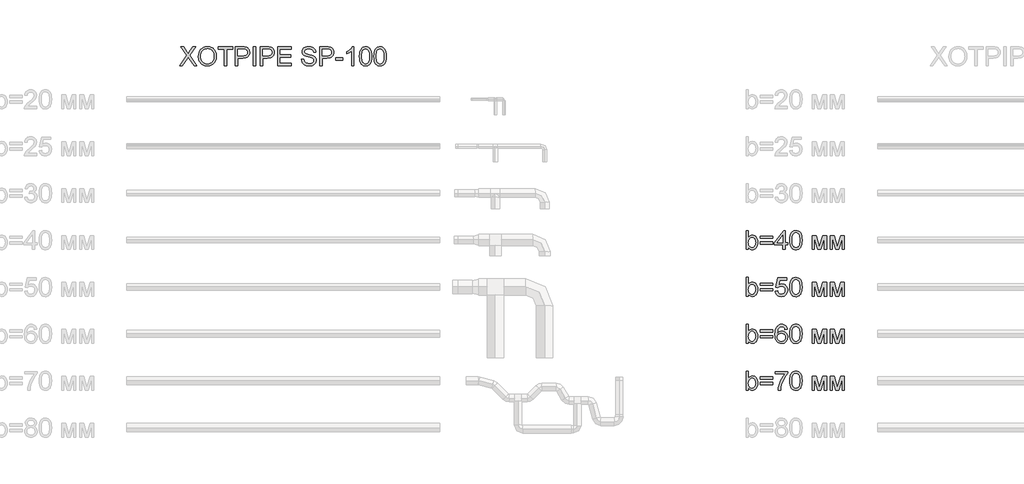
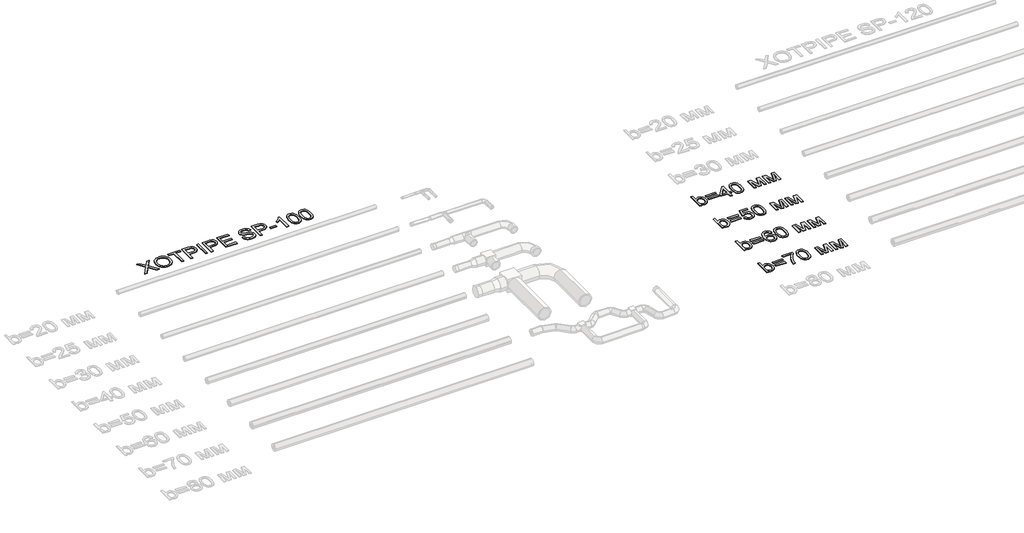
# One storey, part 76 of 86: 5 proxies.
"""IFC4 building model written with IfcOpenShell, lengths in millimetres."""

from ifc_helpers import new_model, si_unit, origin, origin_with_axes, place, context, project, spatial, polyline, outline, extrude, element, save

model = new_model("IFC4")

# Units and contexts
model_context = context("Model", 3, world=origin())
ifc_project = project(units=[si_unit("LENGTHUNIT", "METRE", prefix="MILLI")], contexts=[model_context])

# Site, building, storey
site = spatial("IfcSite", under=ifc_project)
building = spatial("IfcBuilding", under=site)
storey = spatial("IfcBuildingStorey", under=building, Name="Уровень 1", Elevation=0.0)

# Proxies
placement = place(None, origin())
element("IfcBuildingElementProxy", 1, Name="Текст модели 1", ObjectType="Текст модели 1", at=placement, inside=storey, context=model_context, shape_type="SweptSolid", body=[
    extrude(outline(polyline([(28966.5663277, 90543.2937088), (29198.9205959, 90871.7387541), (29004.237444, 91146.0315697), (29094.589262, 91146.0315697), (29204.2180966, 90991.6682845), (29230.3745065, 90952.5624284), (29241.1534489, 90931.4827901), (29284.4163716, 90992.6983541), (29392.8679837, 91146.0315697), (29484.5441769, 91146.0315697), (29289.8610251, 90870.8558373), (29522.2152932, 90543.2937088), (29431.8634752, 90543.2937088), (29277.0587317, 90761.6684611), (29244.8322689, 90806.9915229), (29209.3684445, 90757.2538772), (29058.2425209, 90543.2937088), (28966.5663277, 90543.2937088)])), origin_with_axes(), (0.0, 0.0, 1.0), 20.0),
    extrude(outline(polyline([(29569.3041886, 90836.7163882), (29574.3257779, 90907.4141106), (29589.3905456, 90970.000035), (29614.4984917, 91024.4741614), (29630.8186567, 91048.6693004), (29649.6496164, 91070.8364899), (29692.7377951, 91107.8546156), (29741.6569034, 91134.2961341), (29796.4069413, 91150.1610451), (29856.9879089, 91155.4493488), (29897.5377018, 91152.9661453), (29936.0457496, 91145.5165349), (29972.5120524, 91133.1005176), (30006.9366101, 91115.7180933), (30038.3537325, 91093.8934939), (30065.7977293, 91068.1509513), (30089.2686006, 91038.4904655), (30108.7663464, 91004.9120363), (30124.0886314, 90968.1790191), (30135.0331208, 90929.0547689), (30141.5998144, 90887.5392858), (30143.7887123, 90843.6325697), (30141.4848513, 90799.1464394), (30134.5732683, 90757.0699362), (30123.0539633, 90717.4030601), (30106.9269364, 90680.145811), (30086.573865, 90646.2822733), (30062.3764268, 90616.7965314), (30034.3346217, 90591.6885853), (30002.4484497, 90570.9584348), (29967.9733083, 90554.7348388), (29932.1645946, 90543.146556), (29895.0223086, 90536.1935863), (29856.5464505, 90533.8759297), (29815.2884847, 90536.4373081), (29776.2745991, 90544.1214433), (29739.5047937, 90556.9283352), (29704.9790684, 90574.857984), (29673.5987343, 90597.2160122), (29646.265102, 90623.3080428), (29622.9781717, 90653.1340755), (29603.7379434, 90686.6941105), (29588.6731757, 90722.64078), (29577.9126273, 90759.6267161), (29571.4562983, 90797.6519188), (29569.3041886, 90836.7163882)]), holes=[polyline([(29644.6464212, 90835.9806242), (29648.4126132, 90786.0314463), (29659.7111889, 90741.6924688), (29678.5421486, 90702.9636918), (29704.905492, 90669.8451151), (29736.9526124, 90643.3208233), (29772.8349025, 90624.3749005), (29812.5523624, 90613.0073469), (29856.1049921, 90609.2181623), (29900.4025828, 90613.0441351), (29940.5890923, 90624.5220533), (29976.6645204, 90643.6519171), (30008.6288673, 90670.4337263), (30034.7990727, 90704.2512787), (30053.4920766, 90744.488372), (30064.7078789, 90791.145006), (30068.4464797, 90844.2211809), (30066.846193, 90878.7009209), (30062.045333, 90910.9181866), (30054.0438996, 90940.872978), (30042.8418928, 90968.5652952), (30028.5634729, 90993.6318547), (30011.3327999, 91015.7093729), (29991.149874, 91034.7978499), (29968.014695, 91050.8972857), (29942.6446329, 91063.6765866), (29915.7570576, 91072.8046586), (29887.351969, 91078.2815018), (29857.4293672, 91080.1071162), (29815.3896522, 91076.5892446), (29776.3849637, 91066.0356298), (29740.4153016, 91048.446272), (29707.480666, 91023.8211709), (29679.9906839, 90990.9739073), (29660.3549824, 90948.7180616), (29648.5735615, 90897.0536339), (29644.6464212, 90835.9806242)])]), origin_with_axes(), (0.0, 0.0, 1.0), 20.0),
    extrude(outline(polyline([(30398.0687474, 90543.2937088), (30398.0687474, 91070.6893371), (30200.2953868, 91070.6893371), (30200.2953868, 91146.0315697), (30671.1843406, 91146.0315697), (30671.1843406, 91070.6893371), (30473.41098, 91070.6893371), (30473.41098, 90543.2937088), (30398.0687474, 90543.2937088)])), origin_with_axes(), (0.0, 0.0, 1.0), 20.0),
    extrude(outline(polyline([(30755.9443523, 90543.2937088), (30755.9443523, 91146.0315697), (30979.3222997, 91146.0315697), (31031.3408139, 91144.5968299), (31069.3798122, 91140.2926106), (31109.5341319, 91129.5688504), (31142.5883292, 91112.1128497), (31169.2045915, 91087.1336623), (31190.0451066, 91053.8403417), (31203.5095876, 91014.5689387), (31207.9977479, 90971.655504), (31204.96732, 90934.6557723), (31195.8760362, 90900.6174907), (31180.7238965, 90869.5406592), (31159.510901, 90841.4252777), (31130.3884425, 90818.1199533), (31091.5079142, 90801.473293), (31042.8693159, 90791.4852968), (30984.4726477, 90788.1559648), (30831.2865849, 90788.1559648), (30831.2865849, 90543.2937088), (30755.9443523, 90543.2937088)]), holes=[polyline([(30831.2865849, 90863.4981974), (30988.8872316, 90863.4981974), (31025.1236081, 90865.2272428), (31055.6946019, 90870.4143789), (31080.600213, 90879.0596058), (31099.8404414, 90891.1629234), (31114.1970362, 90906.4024351), (31124.4517468, 90924.456244), (31130.6045732, 90945.3243502), (31132.6555153, 90969.0067536), (31127.8178671, 91002.8518972), (31113.3049224, 91031.39954), (31090.919303, 91052.8838485), (31062.4636306, 91065.5389892), (31033.400953, 91069.4017501), (30987.121398, 91070.6893371), (30831.2865849, 91070.6893371), (30831.2865849, 90863.4981974)])]), origin_with_axes(), (0.0, 0.0, 1.0), 20.0),
    extrude(outline(polyline([(31321.0110969, 90543.2937088), (31321.0110969, 91146.0315697), (31396.3533295, 91146.0315697), (31396.3533295, 90543.2937088), (31321.0110969, 90543.2937088)])), origin_with_axes(), (0.0, 0.0, 1.0), 20.0),
    extrude(outline(polyline([(31547.0377947, 90543.2937088), (31547.0377947, 91146.0315697), (31770.4157422, 91146.0315697), (31822.4342563, 91144.5968299), (31860.4732546, 91140.2926106), (31900.6275744, 91129.5688504), (31933.6817716, 91112.1128497), (31960.298034, 91087.1336623), (31981.138549, 91053.8403417), (31994.60303, 91014.5689387), (31999.0911904, 90971.655504), (31996.0607624, 90934.6557723), (31986.9694786, 90900.6174907), (31971.8173389, 90869.5406592), (31950.6043434, 90841.4252777), (31921.481885, 90818.1199533), (31882.6013566, 90801.473293), (31833.9627583, 90791.4852968), (31775.5660901, 90788.1559648), (31622.3800273, 90788.1559648), (31622.3800273, 90543.2937088), (31547.0377947, 90543.2937088)]), holes=[polyline([(31622.3800273, 90863.4981974), (31779.980674, 90863.4981974), (31816.2170506, 90865.2272428), (31846.7880444, 90870.4143789), (31871.6936554, 90879.0596058), (31890.9338838, 90891.1629234), (31905.2904786, 90906.4024351), (31915.5451893, 90924.456244), (31921.6980156, 90945.3243502), (31923.7489578, 90969.0067536), (31918.9113095, 91002.8518972), (31904.3983648, 91031.39954), (31882.0127454, 91052.8838485), (31853.5570731, 91065.5389892), (31824.4943955, 91069.4017501), (31778.2148405, 91070.6893371), (31622.3800273, 91070.6893371), (31622.3800273, 90863.4981974)])]), origin_with_axes(), (0.0, 0.0, 1.0), 20.0),
    extrude(outline(polyline([(32102.6867602, 90543.2937088), (32102.6867602, 91146.0315697), (32535.9045977, 91146.0315697), (32535.9045977, 91070.6893371), (32178.0289928, 91070.6893371), (32178.0289928, 90891.7515346), (32517.0690396, 90891.7515346), (32517.0690396, 90816.409302), (32178.0289928, 90816.409302), (32178.0289928, 90618.6359414), (32545.3223768, 90618.6359414), (32545.3223768, 90543.2937088), (32102.6867602, 90543.2937088)])), origin_with_axes(), (0.0, 0.0, 1.0), 20.0),
    extrude(outline(polyline([(32865.5268654, 90750.4848485), (32940.869098, 90750.4848485), (32949.5143249, 90708.6750597), (32965.1493097, 90675.0690395), (32989.539886, 90648.3975948), (33024.4518873, 90627.3915329), (33067.1261988, 90613.761505), (33114.8037053, 90609.2181623), (33156.779041, 90612.657859), (33193.5304523, 90622.976949), (33223.3104998, 90639.3109095), (33244.371744, 90660.7952181), (33256.898126, 90685.4617058), (33261.0735866, 90711.3422042), (33257.9465897, 90736.560515), (33248.5655988, 90758.3575232), (33229.5093114, 90776.953958), (33197.3564251, 90792.5705487), (33087.6540141, 90821.3389208), (33015.6411135, 90840.376814), (32969.5638936, 90858.4950023), (32932.0583242, 90883.8420717), (32905.4788501, 90914.5602183), (32889.6415302, 90949.9872545), (32884.3624236, 90989.4609925), (32885.9948999, 91011.8971957), (32890.892329, 91033.5884379), (32899.0547107, 91054.534719), (32910.4820452, 91074.736039), (32925.0455737, 91093.3692621), (32942.6165375, 91109.6112522), (32963.1949366, 91123.4620093), (32986.780771, 91134.9215334), (33039.7925665, 91150.3173949), (33098.4697448, 91155.4493488), (33162.0397535, 91150.0782716), (33217.6635112, 91133.9650403), (33241.9989052, 91121.9628902), (33263.354455, 91107.4407484), (33281.7301607, 91090.398615), (33297.1260221, 91070.8364899), (33309.4224778, 91049.3245902), (33318.4999661, 91026.4331331), (33324.3584868, 91002.1621184), (33326.9980402, 90976.5115463), (33251.6558075, 90976.5115463), (33246.6158242, 91000.5526347), (33237.8234445, 91021.4667261), (33225.2786685, 91039.2538206), (33208.9814961, 91053.9139181), (33188.6284247, 91065.3734423), (33163.9159517, 91073.5588166), (33134.844077, 91078.4700413), (33101.4128007, 91080.1071162), (33066.9146666, 91078.4884354), (33037.4381218, 91073.632393), (33012.9831661, 91065.5389892), (32993.5497997, 91054.2082237), (32978.7425494, 91040.5873928), (32968.1659421, 91025.6237927), (32961.8199776, 91009.3174232), (32959.7046562, 90991.6682845), (32961.2037753, 90976.4839552), (32965.7011327, 90962.7159715), (32973.1967283, 90950.3643335), (32983.6905623, 90939.4290412), (33000.2084638, 90929.073163), (33026.2177209, 90918.6069203), (33106.7103014, 90897.343341), (33189.778056, 90877.1466194), (33240.0307365, 90859.5250719), (33282.9809594, 90832.1914396), (33299.586233, 90816.1241935), (33312.9449479, 90798.4566607), (33323.2134541, 90779.2808117), (33330.5481014, 90758.688617), (33336.4158192, 90713.2551906), (33334.7281606, 90689.6877503), (33329.6651846, 90666.8100887), (33321.2268914, 90644.6222058), (33309.4132808, 90623.1241018), (33294.4312865, 90603.1481094), (33276.4878422, 90585.5265618), (33255.5829478, 90570.259459), (33231.7166034, 90557.346801), (33205.5831862, 90547.0782948), (33177.8770734, 90539.7436475), (33117.7467613, 90533.8759297), (33079.2065238, 90535.4578223), (33043.931239, 90540.2035), (33011.9209069, 90548.1129629), (32983.1755275, 90559.186211), (32957.5203568, 90573.4416383), (32934.780651, 90590.897639), (32914.95641, 90611.554213), (32898.0476338, 90635.4113604), (32884.4268029, 90661.6965289), (32874.4663979, 90689.6371665), (32868.1664187, 90719.233273), (32865.5268654, 90750.4848485)])), origin_with_axes(), (0.0, 0.0, 1.0), 20.0),
    extrude(outline(polyline([(33449.4291682, 90543.2937088), (33449.4291682, 91146.0315697), (33672.8071156, 91146.0315697), (33724.8256297, 91144.5968299), (33762.864628, 91140.2926106), (33803.0189478, 91129.5688504), (33836.0731451, 91112.1128497), (33862.6894074, 91087.1336623), (33883.5299225, 91053.8403417), (33896.9944035, 91014.5689387), (33901.4825638, 90971.655504), (33898.4521359, 90934.6557723), (33889.3608521, 90900.6174907), (33874.2087124, 90869.5406592), (33852.9957169, 90841.4252777), (33823.8732584, 90818.1199533), (33784.9927301, 90801.473293), (33736.3541318, 90791.4852968), (33677.9574636, 90788.1559648), (33524.7714008, 90788.1559648), (33524.7714008, 90543.2937088), (33449.4291682, 90543.2937088)]), holes=[polyline([(33524.7714008, 90863.4981974), (33682.3720475, 90863.4981974), (33718.608424, 90865.2272428), (33749.1794178, 90870.4143789), (33774.0850289, 90879.0596058), (33793.3252572, 90891.1629234), (33807.6818521, 90906.4024351), (33817.9365627, 90924.456244), (33824.0893891, 90945.3243502), (33826.1403312, 90969.0067536), (33821.302683, 91002.8518972), (33806.7897383, 91031.39954), (33784.4041189, 91052.8838485), (33755.9484465, 91065.5389892), (33726.8857689, 91069.4017501), (33680.6062139, 91070.6893371), (33524.7714008, 91070.6893371), (33524.7714008, 90863.4981974)])]), origin_with_axes(), (0.0, 0.0, 1.0), 20.0),
    extrude(outline(polyline([(33957.9892383, 90722.2315113), (33957.9892383, 90797.5737439), (34193.4337152, 90797.5737439), (34193.4337152, 90722.2315113), (33957.9892383, 90722.2315113)])), origin_with_axes(), (0.0, 0.0, 1.0), 20.0),
    extrude(outline(polyline([(34541.891541, 90543.2937088), (34466.5493084, 90543.2937088), (34466.5493084, 91013.0054402), (34435.0953978, 90987.5664003), (34395.1802014, 90962.1641485), (34353.2784421, 90939.9624701), (34315.8648432, 90924.1251502), (34315.8648432, 90995.3471045), (34375.0386621, 91027.5367791), (34426.3030181, 91065.8332947), (34466.7148553, 91106.5578316), (34493.3311177, 91146.0315697), (34541.891541, 91146.0315697), (34541.891541, 90543.2937088)])), origin_with_axes(), (0.0, 0.0, 1.0), 20.0),
    extrude(outline(polyline([(34720.8293435, 90839.8065969), (34726.3659675, 90936.2836501), (34733.2867475, 90977.1967265), (34742.9758396, 91013.2261694), (34755.3918569, 91044.6662845), (34770.4934128, 91071.8113772), (34788.2805073, 91094.6614476), (34808.7531403, 91113.2164957), (34831.9802898, 91127.5730906), (34858.0309336, 91137.8278012), (34886.9050717, 91143.9806276), (34918.6027041, 91146.0315697), (34965.0294119, 91141.1755274), (35006.6000773, 91126.6074004), (35041.3649259, 91102.8974058), (35067.3741829, 91070.6157607), (35087.0190815, 91030.0383766), (35102.6908545, 90981.4411651), (35112.9547621, 90919.7289604), (35116.3760647, 90839.8065969), (35110.894623, 90743.8813667), (35104.0428208, 90703.106246), (35094.4502978, 90667.1227884), (35082.1308495, 90635.6688778), (35067.0982714, 90608.4823983), (35049.3525637, 90585.56335), (35028.8937262, 90566.9117329), (35005.6389856, 90552.458569), (34979.5055684, 90542.1348805), (34950.4934745, 90535.9406674), (34918.6027041, 90533.8759297), (34877.105615, 90537.4627792), (34840.3174155, 90548.2233275), (34808.2381055, 90566.1575748), (34780.8676851, 90591.265521), (34754.6009106, 90636.6529621), (34735.8389289, 90693.2056218), (34724.5817398, 90760.9235001), (34720.8293435, 90839.8065969)]), holes=[polyline([(34796.1715761, 90839.9537497), (34798.3788681, 90774.456959), (34805.000744, 90721.440565), (34816.0372038, 90680.9045676), (34831.4882476, 90652.848967), (34850.176653, 90633.7604899), (34870.9251975, 90620.1258635), (34893.7338812, 90611.9450876), (34918.6027041, 90609.2181623), (34943.471527, 90611.9542847), (34966.2802107, 90620.1626517), (34987.0287552, 90633.8432634), (35005.7171605, 90652.9961198), (35021.1682043, 90681.0977057), (35032.2046642, 90721.624506), (35038.8265401, 90774.5765206), (35041.0338321, 90839.9537497), (35038.9001165, 90903.7168965), (35032.4989698, 90955.79979), (35021.8303919, 90996.2024301), (35006.8943829, 91024.9248169), (34988.5186773, 91044.9467945), (34967.5310094, 91059.248207), (34943.9313795, 91067.8290546), (34917.7197873, 91070.6893371), (34892.9797231, 91068.1693454), (34870.5573155, 91060.6093704), (34850.4525645, 91048.0094121), (34832.66547, 91030.3694704), (34816.6993914, 90999.0995008), (34805.2950496, 90956.9402242), (34798.4524445, 90903.8916405), (34796.1715761, 90839.9537497)])]), origin_with_axes(), (0.0, 0.0, 1.0), 20.0),
    extrude(outline(polyline([(35182.3005182, 90839.8065969), (35187.8371423, 90936.2836501), (35194.7579223, 90977.1967265), (35204.4470143, 91013.2261694), (35216.8630317, 91044.6662845), (35231.9645876, 91071.8113772), (35249.751682, 91094.6614476), (35270.2243151, 91113.2164957), (35293.4514646, 91127.5730906), (35319.5021083, 91137.8278012), (35348.3762464, 91143.9806276), (35380.0738788, 91146.0315697), (35426.5005866, 91141.1755274), (35468.0712521, 91126.6074004), (35502.8361006, 91102.8974058), (35528.8453577, 91070.6157607), (35548.4902562, 91030.0383766), (35564.1620292, 90981.4411651), (35574.4259369, 90919.7289604), (35577.8472394, 90839.8065969), (35572.3657977, 90743.8813667), (35565.5139956, 90703.106246), (35555.9214725, 90667.1227884), (35543.6020242, 90635.6688778), (35528.5694462, 90608.4823983), (35510.8237385, 90585.56335), (35490.364901, 90566.9117329), (35467.1101604, 90552.458569), (35440.9767431, 90542.1348805), (35411.9646493, 90535.9406674), (35380.0738788, 90533.8759297), (35338.5767898, 90537.4627792), (35301.7885903, 90548.2233275), (35269.7092803, 90566.1575748), (35242.3388598, 90591.265521), (35216.0720854, 90636.6529621), (35197.3101036, 90693.2056218), (35186.0529146, 90760.9235001), (35182.3005182, 90839.8065969)]), holes=[polyline([(35257.6427508, 90839.9537497), (35259.8500428, 90774.456959), (35266.4719187, 90721.440565), (35277.5083786, 90680.9045676), (35292.9594224, 90652.848967), (35311.6478277, 90633.7604899), (35332.3963723, 90620.1258635), (35355.205056, 90611.9450876), (35380.0738788, 90609.2181623), (35404.9427017, 90611.9542847), (35427.7513854, 90620.1626517), (35448.4999299, 90633.8432634), (35467.1883353, 90652.9961198), (35482.6393791, 90681.0977057), (35493.675839, 90721.624506), (35500.2977149, 90774.5765206), (35502.5050068, 90839.9537497), (35500.3712913, 90903.7168965), (35493.9701445, 90955.79979), (35483.3015667, 90996.2024301), (35468.3655577, 91024.9248169), (35449.989852, 91044.9467945), (35429.0021842, 91059.248207), (35405.4025542, 91067.8290546), (35379.1909621, 91070.6893371), (35354.4508979, 91068.1693454), (35332.0284903, 91060.6093704), (35311.9237392, 91048.0094121), (35294.1366448, 91030.3694704), (35278.1705662, 90999.0995008), (35266.7662243, 90956.9402242), (35259.9236192, 90903.8916405), (35257.6427508, 90839.9537497)])]), origin_with_axes(), (0.0, 0.0, 1.0), 20.0),
])
element("IfcBuildingElementProxy", 2, Name="Текст модели 1", ObjectType="Текст модели 1", at=placement, inside=storey, context=model_context, shape_type="SweptSolid", body=[
    extrude(outline(polyline([(47159.6307988, 84669.2937088), (47084.2885662, 84669.2937088), (47084.2885662, 85272.0315697), (47159.6307988, 85272.0315697), (47159.6307988, 85048.5064694), (47184.4076512, 85080.3742473), (47212.3850769, 85103.1369457), (47243.563076, 85116.7945648), (47277.9416484, 85121.3471045), (47316.7531989, 85117.2452202), (47353.4310339, 85104.9395675), (47385.8782258, 85085.2026984), (47411.9978475, 85058.8071653), (47432.4704805, 85026.0104854), (47447.9767066, 84987.0701762), (47457.7439736, 84943.6049185), (47460.9997292, 84897.233393), (47457.6290105, 84843.7249568), (47447.5168541, 84796.6544555), (47430.6632602, 84756.0218892), (47407.0682288, 84721.8272577), (47378.7459136, 84694.7235517), (47347.7104688, 84675.3637617), (47313.9618943, 84663.7478877), (47277.50019, 84659.8759297), (47241.9903805, 84664.8699278), (47210.5088787, 84679.8519221), (47183.0556848, 84704.8219125), (47159.6307988, 84739.7798991), (47159.6307988, 84669.2937088)]), holes=[polyline([(47159.6307988, 84893.7017259), (47164.7811467, 84830.8674811), (47171.2190816, 84807.065516), (47180.2321905, 84788.3403224), (47198.4883345, 84765.0993774), (47219.7059286, 84748.4987024), (47243.8849727, 84738.5382973), (47271.0254669, 84735.2181623), (47293.5582391, 84737.6645776), (47314.5091188, 84745.0038234), (47333.8781058, 84757.2358997), (47351.6652003, 84774.3608066), (47366.5368299, 84796.3325588), (47377.1594225, 84823.105171), (47383.5329781, 84854.6786432), (47385.6574966, 84891.0529755), (47383.6203501, 84928.1170865), (47377.5089104, 84959.9940614), (47367.3231777, 84986.6839001), (47353.0631519, 85008.1866028), (47335.9152524, 85024.7320955), (47317.0658986, 85036.5503046), (47296.5150907, 85043.64123), (47274.2628285, 85046.0048719), (47251.7300563, 85043.5584566), (47230.7791767, 85036.2192108), (47211.4101896, 85023.9871344), (47193.6230951, 85006.8622276), (47178.7514655, 84985.1112046), (47168.1288729, 84959.00078), (47161.7553173, 84928.5309538), (47159.6307988, 84893.7017259)])]), origin_with_axes(), (0.0, 0.0, 1.0), 20.0),
    extrude(outline(polyline([(47931.8886831, 85017.7515346), (47536.3419619, 85017.7515346), (47536.3419619, 85093.0937672), (47931.8886831, 85093.0937672), (47931.8886831, 85017.7515346)])), origin_with_axes(), (0.0, 0.0, 1.0), 20.0),
    extrude(outline(polyline([(47931.8886831, 84838.8137322), (47536.3419619, 84838.8137322), (47536.3419619, 84914.1559648), (47931.8886831, 84914.1559648), (47931.8886831, 84838.8137322)])), origin_with_axes(), (0.0, 0.0, 1.0), 20.0),
    extrude(outline(polyline([(48261.5109507, 84669.2937088), (48261.5109507, 84810.5603949), (47988.3953575, 84810.5603949), (47988.3953575, 84885.9026276), (48280.3465089, 85262.6137906), (48336.8531834, 85262.6137906), (48336.8531834, 84885.9026276), (48412.195416, 84885.9026276), (48412.195416, 84810.5603949), (48336.8531834, 84810.5603949), (48336.8531834, 84669.2937088), (48261.5109507, 84669.2937088)]), holes=[polyline([(48261.5109507, 84885.9026276), (48261.5109507, 85118.6983541), (48081.1016203, 84885.9026276), (48261.5109507, 84885.9026276)])]), origin_with_axes(), (0.0, 0.0, 1.0), 20.0),
    extrude(outline(polyline([(48478.1198695, 84965.8065969), (48483.6564935, 85062.2836501), (48490.5772736, 85103.1967265), (48500.2663656, 85139.2261694), (48512.682383, 85170.6662845), (48527.7839389, 85197.8113772), (48545.5710333, 85220.6614476), (48566.0436664, 85239.2164957), (48589.2708158, 85253.5730906), (48615.3214596, 85263.8278012), (48644.1955977, 85269.9806276), (48675.8932301, 85272.0315697), (48722.3199379, 85267.1755274), (48763.8906034, 85252.6074004), (48798.6554519, 85228.8974058), (48824.664709, 85196.6157607), (48844.3096075, 85156.0383766), (48859.9813805, 85107.4411651), (48870.2452882, 85045.7289604), (48873.6665907, 84965.8065969), (48868.185149, 84869.8813667), (48861.3333468, 84829.106246), (48851.7408238, 84793.1227884), (48839.4213755, 84761.6688778), (48824.3887975, 84734.4823983), (48806.6430897, 84711.56335), (48786.1842523, 84692.9117329), (48762.9295116, 84678.458569), (48736.7960944, 84668.1348805), (48707.7840006, 84661.9406674), (48675.8932301, 84659.8759297), (48634.3961411, 84663.4627792), (48597.6079415, 84674.2233275), (48565.5286316, 84692.1575748), (48538.1582111, 84717.265521), (48511.8914367, 84762.6529621), (48493.1294549, 84819.2056218), (48481.8722659, 84886.9235001), (48478.1198695, 84965.8065969)]), holes=[polyline([(48553.4621021, 84965.9537497), (48555.6693941, 84900.456959), (48562.29127, 84847.440565), (48573.3277299, 84806.9045676), (48588.7787737, 84778.848967), (48607.467179, 84759.7604899), (48628.2157235, 84746.1258635), (48651.0244072, 84737.9450876), (48675.8932301, 84735.2181623), (48700.762053, 84737.9542847), (48723.5707367, 84746.1626517), (48744.3192812, 84759.8432634), (48763.0076866, 84778.9961198), (48778.4587304, 84807.0977057), (48789.4951902, 84847.624506), (48796.1170661, 84900.5765206), (48798.3243581, 84965.9537497), (48796.1906425, 85029.7168965), (48789.7894958, 85081.79979), (48779.120918, 85122.2024301), (48764.184909, 85150.9248169), (48745.8092033, 85170.9467945), (48724.8215355, 85185.248207), (48701.2219055, 85193.8290546), (48675.0103133, 85196.6893371), (48650.2702492, 85194.1693454), (48627.8478415, 85186.6093704), (48607.7430905, 85174.0094121), (48589.955996, 85156.3694704), (48573.9899175, 85125.0995008), (48562.5855756, 85082.9402242), (48555.7429705, 85029.8916405), (48553.4621021, 84965.9537497)])]), origin_with_axes(), (0.0, 0.0, 1.0), 20.0),
    extrude(outline(polyline([(49193.8710793, 85111.9293254), (49323.5126944, 85111.9293254), (49423.4294443, 84757.5853876), (49531.1452925, 85111.9293254), (49655.3422541, 85111.9293254), (49655.3422541, 84669.2937088), (49580.0000215, 84669.2937088), (49580.0000215, 85025.6977857), (49471.6955621, 84669.2937088), (49372.8088818, 84669.2937088), (49269.2133119, 85042.7675103), (49269.2133119, 84669.2937088), (49193.8710793, 84669.2937088), (49193.8710793, 85111.9293254)])), origin_with_axes(), (0.0, 0.0, 1.0), 20.0),
    extrude(outline(polyline([(49768.355603, 85111.9293254), (49897.9972181, 85111.9293254), (49997.913968, 84757.5853876), (50105.6298162, 85111.9293254), (50229.8267777, 85111.9293254), (50229.8267777, 84669.2937088), (50154.4845451, 84669.2937088), (50154.4845451, 85025.6977857), (50046.1800857, 84669.2937088), (49947.2934054, 84669.2937088), (49843.6978356, 85042.7675103), (49843.6978356, 84669.2937088), (49768.355603, 84669.2937088), (49768.355603, 85111.9293254)])), origin_with_axes(), (0.0, 0.0, 1.0), 20.0),
])
element("IfcBuildingElementProxy", 3, Name="Текст модели 1", ObjectType="Текст модели 1", at=placement, inside=storey, context=model_context, shape_type="SweptSolid", body=[
    extrude(outline(polyline([(47159.6307988, 83169.2937088), (47084.2885662, 83169.2937088), (47084.2885662, 83772.0315697), (47159.6307988, 83772.0315697), (47159.6307988, 83548.5064694), (47184.4076512, 83580.3742473), (47212.3850769, 83603.1369457), (47243.563076, 83616.7945648), (47277.9416484, 83621.3471045), (47316.7531989, 83617.2452202), (47353.4310339, 83604.9395675), (47385.8782258, 83585.2026984), (47411.9978475, 83558.8071653), (47432.4704805, 83526.0104854), (47447.9767066, 83487.0701762), (47457.7439736, 83443.6049185), (47460.9997292, 83397.233393), (47457.6290105, 83343.7249568), (47447.5168541, 83296.6544555), (47430.6632602, 83256.0218892), (47407.0682288, 83221.8272577), (47378.7459136, 83194.7235517), (47347.7104688, 83175.3637617), (47313.9618943, 83163.7478877), (47277.50019, 83159.8759297), (47241.9903805, 83164.8699278), (47210.5088787, 83179.8519221), (47183.0556848, 83204.8219125), (47159.6307988, 83239.7798991), (47159.6307988, 83169.2937088)]), holes=[polyline([(47159.6307988, 83393.7017259), (47164.7811467, 83330.8674811), (47171.2190816, 83307.065516), (47180.2321905, 83288.3403224), (47198.4883345, 83265.0993774), (47219.7059286, 83248.4987024), (47243.8849727, 83238.5382973), (47271.0254669, 83235.2181623), (47293.5582391, 83237.6645776), (47314.5091188, 83245.0038234), (47333.8781058, 83257.2358997), (47351.6652003, 83274.3608066), (47366.5368299, 83296.3325588), (47377.1594225, 83323.105171), (47383.5329781, 83354.6786432), (47385.6574966, 83391.0529755), (47383.6203501, 83428.1170865), (47377.5089104, 83459.9940614), (47367.3231777, 83486.6839001), (47353.0631519, 83508.1866028), (47335.9152524, 83524.7320955), (47317.0658986, 83536.5503046), (47296.5150907, 83543.64123), (47274.2628285, 83546.0048719), (47251.7300563, 83543.5584566), (47230.7791767, 83536.2192108), (47211.4101896, 83523.9871344), (47193.6230951, 83506.8622276), (47178.7514655, 83485.1112046), (47168.1288729, 83459.00078), (47161.7553173, 83428.5309538), (47159.6307988, 83393.7017259)])]), origin_with_axes(), (0.0, 0.0, 1.0), 20.0),
    extrude(outline(polyline([(47931.8886831, 83517.7515346), (47536.3419619, 83517.7515346), (47536.3419619, 83593.0937672), (47931.8886831, 83593.0937672), (47931.8886831, 83517.7515346)])), origin_with_axes(), (0.0, 0.0, 1.0), 20.0),
    extrude(outline(polyline([(47931.8886831, 83338.8137322), (47536.3419619, 83338.8137322), (47536.3419619, 83414.1559648), (47931.8886831, 83414.1559648), (47931.8886831, 83338.8137322)])), origin_with_axes(), (0.0, 0.0, 1.0), 20.0),
    extrude(outline(polyline([(48016.6486948, 83329.3959531), (48091.9909274, 83338.8137322), (48097.6195219, 83314.5933013), (48105.8232904, 83293.5826409), (48116.6022328, 83275.7817508), (48129.9563493, 83261.1906312), (48145.8580485, 83249.8276761), (48164.2797394, 83241.7112795), (48185.221422, 83236.8414416), (48208.6830962, 83235.2181623), (48237.3778919, 83237.4760381), (48262.6881731, 83244.2496653), (48284.61394, 83255.539044), (48303.1551926, 83271.3441743), (48317.8980636, 83290.8833067), (48328.4286857, 83313.3746922), (48334.7470589, 83338.8183307), (48336.8531834, 83367.2142222), (48334.8804162, 83394.0512138), (48328.9621146, 83417.9083611), (48319.0982786, 83438.7856644), (48305.2889082, 83456.6831234), (48287.4880181, 83471.0397183), (48265.6496232, 83481.2944289), (48239.7737234, 83487.4472553), (48209.8603186, 83489.4981974), (48173.3112424, 83486.2240476), (48143.7151359, 83476.4015984), (48120.0787177, 83461.3552248), (48101.4087064, 83442.409302), (48026.0664738, 83451.8270811), (48091.9909274, 83762.6137906), (48383.9420787, 83762.6137906), (48383.9420787, 83687.271558), (48152.9121858, 83687.271558), (48120.685723, 83521.2832018), (48147.2743942, 83540.3394891), (48174.5068589, 83553.951123), (48202.3831171, 83562.1181032), (48230.9031687, 83564.84043), (48267.5947992, 83561.4651127), (48301.2973885, 83551.3391608), (48332.0109366, 83534.4625743), (48359.7354435, 83510.8353531), (48382.6866814, 83481.9014342), (48399.0804228, 83449.1047543), (48408.9166677, 83412.4453135), (48412.195416, 83371.9231117), (48409.243163, 83332.8908321), (48400.3864039, 83296.5808791), (48385.6251389, 83262.993253), (48364.9593678, 83232.1279536), (48333.65261, 83200.5176931), (48297.1219279, 83177.9389357), (48255.3673214, 83164.3916812), (48208.3887906, 83159.8759297), (48169.5082623, 83162.777599), (48134.3893273, 83171.4826067), (48103.0319858, 83185.9909529), (48075.4362376, 83206.3026375), (48052.4758026, 83231.4059852), (48035.0244004, 83260.2893203), (48023.0820311, 83292.952643), (48016.6486948, 83329.3959531)])), origin_with_axes(), (0.0, 0.0, 1.0), 20.0),
    extrude(outline(polyline([(48478.1198695, 83465.8065969), (48483.6564935, 83562.2836501), (48490.5772736, 83603.1967265), (48500.2663656, 83639.2261694), (48512.682383, 83670.6662845), (48527.7839389, 83697.8113772), (48545.5710333, 83720.6614476), (48566.0436664, 83739.2164957), (48589.2708158, 83753.5730906), (48615.3214596, 83763.8278012), (48644.1955977, 83769.9806276), (48675.8932301, 83772.0315697), (48722.3199379, 83767.1755274), (48763.8906034, 83752.6074004), (48798.6554519, 83728.8974058), (48824.664709, 83696.6157607), (48844.3096075, 83656.0383766), (48859.9813805, 83607.4411651), (48870.2452882, 83545.7289604), (48873.6665907, 83465.8065969), (48868.185149, 83369.8813667), (48861.3333468, 83329.106246), (48851.7408238, 83293.1227884), (48839.4213755, 83261.6688778), (48824.3887975, 83234.4823983), (48806.6430897, 83211.56335), (48786.1842523, 83192.9117329), (48762.9295116, 83178.458569), (48736.7960944, 83168.1348805), (48707.7840006, 83161.9406674), (48675.8932301, 83159.8759297), (48634.3961411, 83163.4627792), (48597.6079415, 83174.2233275), (48565.5286316, 83192.1575748), (48538.1582111, 83217.265521), (48511.8914367, 83262.6529621), (48493.1294549, 83319.2056218), (48481.8722659, 83386.9235001), (48478.1198695, 83465.8065969)]), holes=[polyline([(48553.4621021, 83465.9537497), (48555.6693941, 83400.456959), (48562.29127, 83347.440565), (48573.3277299, 83306.9045676), (48588.7787737, 83278.848967), (48607.467179, 83259.7604899), (48628.2157235, 83246.1258635), (48651.0244072, 83237.9450876), (48675.8932301, 83235.2181623), (48700.762053, 83237.9542847), (48723.5707367, 83246.1626517), (48744.3192812, 83259.8432634), (48763.0076866, 83278.9961198), (48778.4587304, 83307.0977057), (48789.4951902, 83347.624506), (48796.1170661, 83400.5765206), (48798.3243581, 83465.9537497), (48796.1906425, 83529.7168965), (48789.7894958, 83581.79979), (48779.120918, 83622.2024301), (48764.184909, 83650.9248169), (48745.8092033, 83670.9467945), (48724.8215355, 83685.248207), (48701.2219055, 83693.8290546), (48675.0103133, 83696.6893371), (48650.2702492, 83694.1693454), (48627.8478415, 83686.6093704), (48607.7430905, 83674.0094121), (48589.955996, 83656.3694704), (48573.9899175, 83625.0995008), (48562.5855756, 83582.9402242), (48555.7429705, 83529.8916405), (48553.4621021, 83465.9537497)])]), origin_with_axes(), (0.0, 0.0, 1.0), 20.0),
    extrude(outline(polyline([(49193.8710793, 83611.9293254), (49323.5126944, 83611.9293254), (49423.4294443, 83257.5853876), (49531.1452925, 83611.9293254), (49655.3422541, 83611.9293254), (49655.3422541, 83169.2937088), (49580.0000215, 83169.2937088), (49580.0000215, 83525.6977857), (49471.6955621, 83169.2937088), (49372.8088818, 83169.2937088), (49269.2133119, 83542.7675103), (49269.2133119, 83169.2937088), (49193.8710793, 83169.2937088), (49193.8710793, 83611.9293254)])), origin_with_axes(), (0.0, 0.0, 1.0), 20.0),
    extrude(outline(polyline([(49768.355603, 83611.9293254), (49897.9972181, 83611.9293254), (49997.913968, 83257.5853876), (50105.6298162, 83611.9293254), (50229.8267777, 83611.9293254), (50229.8267777, 83169.2937088), (50154.4845451, 83169.2937088), (50154.4845451, 83525.6977857), (50046.1800857, 83169.2937088), (49947.2934054, 83169.2937088), (49843.6978356, 83542.7675103), (49843.6978356, 83169.2937088), (49768.355603, 83169.2937088), (49768.355603, 83611.9293254)])), origin_with_axes(), (0.0, 0.0, 1.0), 20.0),
])
element("IfcBuildingElementProxy", 4, Name="Текст модели 1", ObjectType="Текст модели 1", at=placement, inside=storey, context=model_context, shape_type="SweptSolid", body=[
    extrude(outline(polyline([(47159.6307988, 81669.2937088), (47084.2885662, 81669.2937088), (47084.2885662, 82272.0315697), (47159.6307988, 82272.0315697), (47159.6307988, 82048.5064694), (47184.4076512, 82080.3742473), (47212.3850769, 82103.1369457), (47243.563076, 82116.7945648), (47277.9416484, 82121.3471045), (47316.7531989, 82117.2452202), (47353.4310339, 82104.9395675), (47385.8782258, 82085.2026984), (47411.9978475, 82058.8071653), (47432.4704805, 82026.0104854), (47447.9767066, 81987.0701762), (47457.7439736, 81943.6049185), (47460.9997292, 81897.233393), (47457.6290105, 81843.7249568), (47447.5168541, 81796.6544555), (47430.6632602, 81756.0218892), (47407.0682288, 81721.8272577), (47378.7459136, 81694.7235517), (47347.7104688, 81675.3637617), (47313.9618943, 81663.7478877), (47277.50019, 81659.8759297), (47241.9903805, 81664.8699278), (47210.5088787, 81679.8519221), (47183.0556848, 81704.8219125), (47159.6307988, 81739.7798991), (47159.6307988, 81669.2937088)]), holes=[polyline([(47159.6307988, 81893.7017259), (47164.7811467, 81830.8674811), (47171.2190816, 81807.065516), (47180.2321905, 81788.3403224), (47198.4883345, 81765.0993774), (47219.7059286, 81748.4987024), (47243.8849727, 81738.5382973), (47271.0254669, 81735.2181623), (47293.5582391, 81737.6645776), (47314.5091188, 81745.0038234), (47333.8781058, 81757.2358997), (47351.6652003, 81774.3608066), (47366.5368299, 81796.3325588), (47377.1594225, 81823.105171), (47383.5329781, 81854.6786432), (47385.6574966, 81891.0529755), (47383.6203501, 81928.1170865), (47377.5089104, 81959.9940614), (47367.3231777, 81986.6839001), (47353.0631519, 82008.1866028), (47335.9152524, 82024.7320955), (47317.0658986, 82036.5503046), (47296.5150907, 82043.64123), (47274.2628285, 82046.0048719), (47251.7300563, 82043.5584566), (47230.7791767, 82036.2192108), (47211.4101896, 82023.9871344), (47193.6230951, 82006.8622276), (47178.7514655, 81985.1112046), (47168.1288729, 81959.00078), (47161.7553173, 81928.5309538), (47159.6307988, 81893.7017259)])]), origin_with_axes(), (0.0, 0.0, 1.0), 20.0),
    extrude(outline(polyline([(47931.8886831, 82017.7515346), (47536.3419619, 82017.7515346), (47536.3419619, 82093.0937672), (47931.8886831, 82093.0937672), (47931.8886831, 82017.7515346)])), origin_with_axes(), (0.0, 0.0, 1.0), 20.0),
    extrude(outline(polyline([(47931.8886831, 81838.8137322), (47536.3419619, 81838.8137322), (47536.3419619, 81914.1559648), (47931.8886831, 81914.1559648), (47931.8886831, 81838.8137322)])), origin_with_axes(), (0.0, 0.0, 1.0), 20.0),
    extrude(outline(polyline([(48402.7776369, 82111.9293254), (48327.4354043, 82102.5115463), (48315.2952984, 82139.8515688), (48298.8877615, 82165.3457911), (48282.6917566, 82179.0585925), (48264.7115241, 82188.8534506), (48244.9470639, 82194.7303655), (48223.398376, 82196.6893371), (48188.3760101, 82192.1276003), (48155.4137833, 82178.4423901), (48127.1052638, 82149.6188358), (48103.9838804, 82109.9427626), (48094.9477789, 82084.6370799), (48088.3672897, 82053.8223643), (48082.5731483, 81975.6658344), (48112.7946542, 82010.9273236), (48149.0126366, 82035.7777524), (48189.2037446, 82050.5114263), (48231.3446271, 82055.4226509), (48267.5442155, 82052.0657277), (48300.9479006, 82041.9949581), (48331.5556826, 82025.2103421), (48359.3675615, 82001.7118796), (48382.4797478, 81972.8975224), (48398.9884523, 81940.1652218), (48408.8936751, 81903.5149781), (48412.195416, 81862.9467911), (48410.6411145, 81835.4798016), (48405.9782103, 81808.9968965), (48398.2067031, 81783.4980757), (48387.3265931, 81758.9833392), (48373.7241563, 81736.3677936), (48357.7856689, 81716.5665452), (48339.5111308, 81699.5795941), (48318.900542, 81685.4069402), (48296.3953609, 81674.2371231), (48272.437046, 81666.2586823), (48247.0255972, 81661.4716179), (48220.1610145, 81659.8759297), (48175.2472214, 81664.1065727), (48134.6836329, 81676.7985015), (48098.470249, 81697.9517162), (48066.6070697, 81727.5662168), (48040.6300023, 81766.8928021), (48022.0749542, 81817.1822709), (48010.9419253, 81878.4346231), (48007.2309157, 81950.6498587), (48011.351194, 82031.6114888), (48023.7120291, 82100.7089245), (48044.3134208, 82157.9421659), (48057.7043254, 82182.1097138), (48073.1553692, 82203.311213), (48104.4161418, 82233.3763691), (48140.6617153, 82254.8514805), (48181.8920899, 82267.7365474), (48228.1072656, 82272.0315697), (48262.8077348, 82269.3736223), (48294.2156601, 82261.39978), (48322.3310416, 82248.110043), (48347.1538792, 82229.5044111), (48368.0127884, 82206.2082837), (48384.2363843, 82178.8470603), (48395.8246672, 82147.4207409), (48402.7776369, 82111.9293254)]), holes=[polyline([(48082.5731483, 81864.1240134), (48086.9325499, 81830.7387224), (48100.0107549, 81798.8617475), (48120.317841, 81771.4545389), (48146.3638863, 81751.4785465), (48177.7994027, 81739.2832584), (48214.2749026, 81735.2181623), (48240.4635021, 81737.3242868), (48263.9941542, 81743.64266), (48284.8668589, 81754.1732821), (48303.0816162, 81768.9161531), (48317.8566768, 81787.2734647), (48328.4102916, 81808.6474086), (48334.7424604, 81833.0379849), (48336.8531834, 81860.4451935), (48334.7700516, 81886.7809458), (48328.5206562, 81910.1644451), (48318.1049972, 81930.5956914), (48303.5230746, 81948.0746847), (48285.253135, 81962.0771932), (48263.773425, 81972.0789849), (48239.0839446, 81978.08006), (48211.1846938, 81980.0804183), (48185.3455822, 81978.08006), (48161.5390186, 81972.0789849), (48139.765003, 81962.0771932), (48120.0235354, 81948.0746847), (48103.638991, 81930.8256177), (48091.9357451, 81911.0841501), (48084.9137975, 81888.850282), (48082.5731483, 81864.1240134)])]), origin_with_axes(), (0.0, 0.0, 1.0), 20.0),
    extrude(outline(polyline([(48478.1198695, 81965.8065969), (48483.6564935, 82062.2836501), (48490.5772736, 82103.1967265), (48500.2663656, 82139.2261694), (48512.682383, 82170.6662845), (48527.7839389, 82197.8113772), (48545.5710333, 82220.6614476), (48566.0436664, 82239.2164957), (48589.2708158, 82253.5730906), (48615.3214596, 82263.8278012), (48644.1955977, 82269.9806276), (48675.8932301, 82272.0315697), (48722.3199379, 82267.1755274), (48763.8906034, 82252.6074004), (48798.6554519, 82228.8974058), (48824.664709, 82196.6157607), (48844.3096075, 82156.0383766), (48859.9813805, 82107.4411651), (48870.2452882, 82045.7289604), (48873.6665907, 81965.8065969), (48868.185149, 81869.8813667), (48861.3333468, 81829.106246), (48851.7408238, 81793.1227884), (48839.4213755, 81761.6688778), (48824.3887975, 81734.4823983), (48806.6430897, 81711.56335), (48786.1842523, 81692.9117329), (48762.9295116, 81678.458569), (48736.7960944, 81668.1348805), (48707.7840006, 81661.9406674), (48675.8932301, 81659.8759297), (48634.3961411, 81663.4627792), (48597.6079415, 81674.2233275), (48565.5286316, 81692.1575748), (48538.1582111, 81717.265521), (48511.8914367, 81762.6529621), (48493.1294549, 81819.2056218), (48481.8722659, 81886.9235001), (48478.1198695, 81965.8065969)]), holes=[polyline([(48553.4621021, 81965.9537497), (48555.6693941, 81900.456959), (48562.29127, 81847.440565), (48573.3277299, 81806.9045676), (48588.7787737, 81778.848967), (48607.467179, 81759.7604899), (48628.2157235, 81746.1258635), (48651.0244072, 81737.9450876), (48675.8932301, 81735.2181623), (48700.762053, 81737.9542847), (48723.5707367, 81746.1626517), (48744.3192812, 81759.8432634), (48763.0076866, 81778.9961198), (48778.4587304, 81807.0977057), (48789.4951902, 81847.624506), (48796.1170661, 81900.5765206), (48798.3243581, 81965.9537497), (48796.1906425, 82029.7168965), (48789.7894958, 82081.79979), (48779.120918, 82122.2024301), (48764.184909, 82150.9248169), (48745.8092033, 82170.9467945), (48724.8215355, 82185.248207), (48701.2219055, 82193.8290546), (48675.0103133, 82196.6893371), (48650.2702492, 82194.1693454), (48627.8478415, 82186.6093704), (48607.7430905, 82174.0094121), (48589.955996, 82156.3694704), (48573.9899175, 82125.0995008), (48562.5855756, 82082.9402242), (48555.7429705, 82029.8916405), (48553.4621021, 81965.9537497)])]), origin_with_axes(), (0.0, 0.0, 1.0), 20.0),
    extrude(outline(polyline([(49193.8710793, 82111.9293254), (49323.5126944, 82111.9293254), (49423.4294443, 81757.5853876), (49531.1452925, 82111.9293254), (49655.3422541, 82111.9293254), (49655.3422541, 81669.2937088), (49580.0000215, 81669.2937088), (49580.0000215, 82025.6977857), (49471.6955621, 81669.2937088), (49372.8088818, 81669.2937088), (49269.2133119, 82042.7675103), (49269.2133119, 81669.2937088), (49193.8710793, 81669.2937088), (49193.8710793, 82111.9293254)])), origin_with_axes(), (0.0, 0.0, 1.0), 20.0),
    extrude(outline(polyline([(49768.355603, 82111.9293254), (49897.9972181, 82111.9293254), (49997.913968, 81757.5853876), (50105.6298162, 82111.9293254), (50229.8267777, 82111.9293254), (50229.8267777, 81669.2937088), (50154.4845451, 81669.2937088), (50154.4845451, 82025.6977857), (50046.1800857, 81669.2937088), (49947.2934054, 81669.2937088), (49843.6978356, 82042.7675103), (49843.6978356, 81669.2937088), (49768.355603, 81669.2937088), (49768.355603, 82111.9293254)])), origin_with_axes(), (0.0, 0.0, 1.0), 20.0),
])
element("IfcBuildingElementProxy", 5, Name="Текст модели 1", ObjectType="Текст модели 1", at=placement, inside=storey, context=model_context, shape_type="SweptSolid", body=[
    extrude(outline(polyline([(47159.6307988, 80169.2937088), (47084.2885662, 80169.2937088), (47084.2885662, 80772.0315697), (47159.6307988, 80772.0315697), (47159.6307988, 80548.5064694), (47184.4076512, 80580.3742473), (47212.3850769, 80603.1369457), (47243.563076, 80616.7945648), (47277.9416484, 80621.3471045), (47316.7531989, 80617.2452202), (47353.4310339, 80604.9395675), (47385.8782258, 80585.2026984), (47411.9978475, 80558.8071653), (47432.4704805, 80526.0104854), (47447.9767066, 80487.0701762), (47457.7439736, 80443.6049185), (47460.9997292, 80397.233393), (47457.6290105, 80343.7249568), (47447.5168541, 80296.6544555), (47430.6632602, 80256.0218892), (47407.0682288, 80221.8272577), (47378.7459136, 80194.7235517), (47347.7104688, 80175.3637617), (47313.9618943, 80163.7478877), (47277.50019, 80159.8759297), (47241.9903805, 80164.8699278), (47210.5088787, 80179.8519221), (47183.0556848, 80204.8219125), (47159.6307988, 80239.7798991), (47159.6307988, 80169.2937088)]), holes=[polyline([(47159.6307988, 80393.7017259), (47164.7811467, 80330.8674811), (47171.2190816, 80307.065516), (47180.2321905, 80288.3403224), (47198.4883345, 80265.0993774), (47219.7059286, 80248.4987024), (47243.8849727, 80238.5382973), (47271.0254669, 80235.2181623), (47293.5582391, 80237.6645776), (47314.5091188, 80245.0038234), (47333.8781058, 80257.2358997), (47351.6652003, 80274.3608066), (47366.5368299, 80296.3325588), (47377.1594225, 80323.105171), (47383.5329781, 80354.6786432), (47385.6574966, 80391.0529755), (47383.6203501, 80428.1170865), (47377.5089104, 80459.9940614), (47367.3231777, 80486.6839001), (47353.0631519, 80508.1866028), (47335.9152524, 80524.7320955), (47317.0658986, 80536.5503046), (47296.5150907, 80543.64123), (47274.2628285, 80546.0048719), (47251.7300563, 80543.5584566), (47230.7791767, 80536.2192108), (47211.4101896, 80523.9871344), (47193.6230951, 80506.8622276), (47178.7514655, 80485.1112046), (47168.1288729, 80459.00078), (47161.7553173, 80428.5309538), (47159.6307988, 80393.7017259)])]), origin_with_axes(), (0.0, 0.0, 1.0), 20.0),
    extrude(outline(polyline([(47931.8886831, 80517.7515346), (47536.3419619, 80517.7515346), (47536.3419619, 80593.0937672), (47931.8886831, 80593.0937672), (47931.8886831, 80517.7515346)])), origin_with_axes(), (0.0, 0.0, 1.0), 20.0),
    extrude(outline(polyline([(47931.8886831, 80338.8137322), (47536.3419619, 80338.8137322), (47536.3419619, 80414.1559648), (47931.8886831, 80414.1559648), (47931.8886831, 80338.8137322)])), origin_with_axes(), (0.0, 0.0, 1.0), 20.0),
    extrude(outline(polyline([(48016.6486948, 80687.271558), (48016.6486948, 80762.6137906), (48412.195416, 80762.6137906), (48412.195416, 80701.6925322), (48355.8175002, 80630.3418193), (48299.9914074, 80539.6037251), (48250.7504024, 80437.7555948), (48230.861782, 80385.7692703), (48214.1277498, 80333.0747731), (48196.1751084, 80254.7526963), (48186.1687181, 80169.2937088), (48110.8264855, 80169.2937088), (48118.9750717, 80246.953598), (48140.7720799, 80339.2551906), (48156.6415895, 80388.6203558), (48175.628899, 80437.0934072), (48197.7340084, 80484.6743447), (48222.9569177, 80531.3631685), (48278.2127933, 80616.5830326), (48336.8531834, 80687.271558), (48016.6486948, 80687.271558)])), origin_with_axes(), (0.0, 0.0, 1.0), 20.0),
    extrude(outline(polyline([(48478.1198695, 80465.8065969), (48483.6564935, 80562.2836501), (48490.5772736, 80603.1967265), (48500.2663656, 80639.2261694), (48512.682383, 80670.6662845), (48527.7839389, 80697.8113772), (48545.5710333, 80720.6614476), (48566.0436664, 80739.2164957), (48589.2708158, 80753.5730906), (48615.3214596, 80763.8278012), (48644.1955977, 80769.9806276), (48675.8932301, 80772.0315697), (48722.3199379, 80767.1755274), (48763.8906034, 80752.6074004), (48798.6554519, 80728.8974058), (48824.664709, 80696.6157607), (48844.3096075, 80656.0383766), (48859.9813805, 80607.4411651), (48870.2452882, 80545.7289604), (48873.6665907, 80465.8065969), (48868.185149, 80369.8813667), (48861.3333468, 80329.106246), (48851.7408238, 80293.1227884), (48839.4213755, 80261.6688778), (48824.3887975, 80234.4823983), (48806.6430897, 80211.56335), (48786.1842523, 80192.9117329), (48762.9295116, 80178.458569), (48736.7960944, 80168.1348805), (48707.7840006, 80161.9406674), (48675.8932301, 80159.8759297), (48634.3961411, 80163.4627792), (48597.6079415, 80174.2233275), (48565.5286316, 80192.1575748), (48538.1582111, 80217.265521), (48511.8914367, 80262.6529621), (48493.1294549, 80319.2056218), (48481.8722659, 80386.9235001), (48478.1198695, 80465.8065969)]), holes=[polyline([(48553.4621021, 80465.9537497), (48555.6693941, 80400.456959), (48562.29127, 80347.440565), (48573.3277299, 80306.9045676), (48588.7787737, 80278.848967), (48607.467179, 80259.7604899), (48628.2157235, 80246.1258635), (48651.0244072, 80237.9450876), (48675.8932301, 80235.2181623), (48700.762053, 80237.9542847), (48723.5707367, 80246.1626517), (48744.3192812, 80259.8432634), (48763.0076866, 80278.9961198), (48778.4587304, 80307.0977057), (48789.4951902, 80347.624506), (48796.1170661, 80400.5765206), (48798.3243581, 80465.9537497), (48796.1906425, 80529.7168965), (48789.7894958, 80581.79979), (48779.120918, 80622.2024301), (48764.184909, 80650.9248169), (48745.8092033, 80670.9467945), (48724.8215355, 80685.248207), (48701.2219055, 80693.8290546), (48675.0103133, 80696.6893371), (48650.2702492, 80694.1693454), (48627.8478415, 80686.6093704), (48607.7430905, 80674.0094121), (48589.955996, 80656.3694704), (48573.9899175, 80625.0995008), (48562.5855756, 80582.9402242), (48555.7429705, 80529.8916405), (48553.4621021, 80465.9537497)])]), origin_with_axes(), (0.0, 0.0, 1.0), 20.0),
    extrude(outline(polyline([(49193.8710793, 80611.9293254), (49323.5126944, 80611.9293254), (49423.4294443, 80257.5853876), (49531.1452925, 80611.9293254), (49655.3422541, 80611.9293254), (49655.3422541, 80169.2937088), (49580.0000215, 80169.2937088), (49580.0000215, 80525.6977857), (49471.6955621, 80169.2937088), (49372.8088818, 80169.2937088), (49269.2133119, 80542.7675103), (49269.2133119, 80169.2937088), (49193.8710793, 80169.2937088), (49193.8710793, 80611.9293254)])), origin_with_axes(), (0.0, 0.0, 1.0), 20.0),
    extrude(outline(polyline([(49768.355603, 80611.9293254), (49897.9972181, 80611.9293254), (49997.913968, 80257.5853876), (50105.6298162, 80611.9293254), (50229.8267777, 80611.9293254), (50229.8267777, 80169.2937088), (50154.4845451, 80169.2937088), (50154.4845451, 80525.6977857), (50046.1800857, 80169.2937088), (49947.2934054, 80169.2937088), (49843.6978356, 80542.7675103), (49843.6978356, 80169.2937088), (49768.355603, 80169.2937088), (49768.355603, 80611.9293254)])), origin_with_axes(), (0.0, 0.0, 1.0), 20.0),
])

save(model, "model.ifc")
